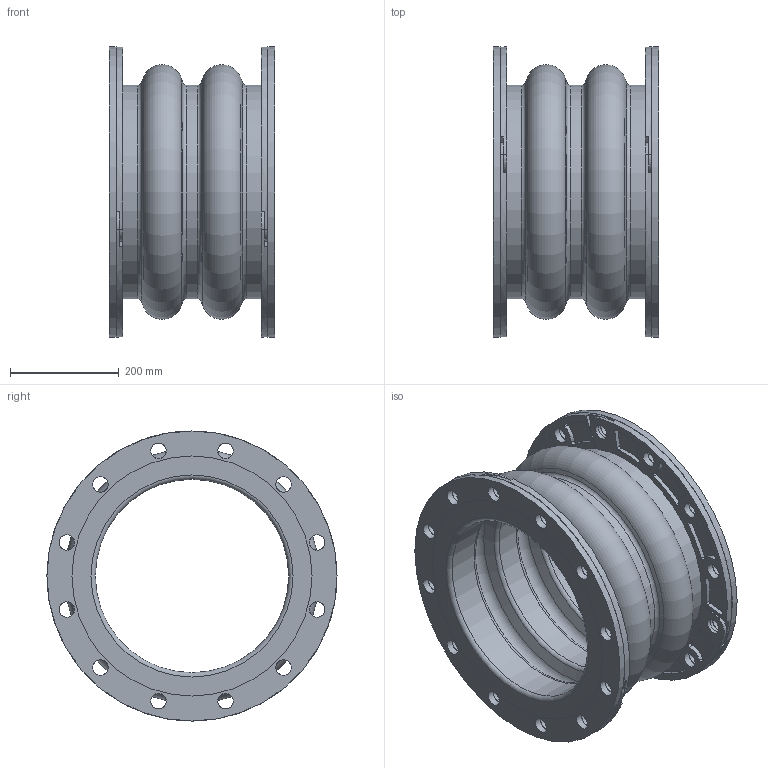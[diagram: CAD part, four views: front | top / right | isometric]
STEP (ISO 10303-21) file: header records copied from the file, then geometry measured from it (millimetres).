
FILE_DESCRIPTION(/* description */ (''),/* implementation_level */ '2;1');
FILE_NAME(/* name */ 'C:\001_Work\Designs\Mercer2014\702 14IDx12FF.stp',/* time_stamp */ '2016-04-10T14:41:51-04:00',/* author */ ('rramoutar'),/* organization */ ('Mason Industries Inc.'),/* preprocessor_version */ 'ST-DEVELOPER v15.6',/* originating_system */ 'Autodesk Inventor 2015',/* authorisation */ '');
FILE_SCHEMA (('CONFIG_CONTROL_DESIGN'));
Length unit declared in the file: inch
Products named in the file (1): 702 14IDx12FF
Bounding box: 304.8 x 533.4 x 533.4 mm (x, y, z)
Volume: 13130750 mm3; surface area: 1969860.1 mm2
Topology: 7 solids, 7 shells, 390 faces, 1026 edges, 678 vertices
Faces by surface type: cylinder 278, plane 90, torus 14, cone 8
Full cylindrical faces by diameter (mm): 28.575 x54, 355.6 x3, 392.112 x3, 533.4 x2
Entity records: 12558 total; most frequent: DIRECTION 2318, CARTESIAN_POINT 1999, ORIENTED_EDGE 1872, AXIS2_PLACEMENT_3D 991, EDGE_CURVE 936, VERTEX_POINT 672, EDGE_LOOP 612, CIRCLE 600
